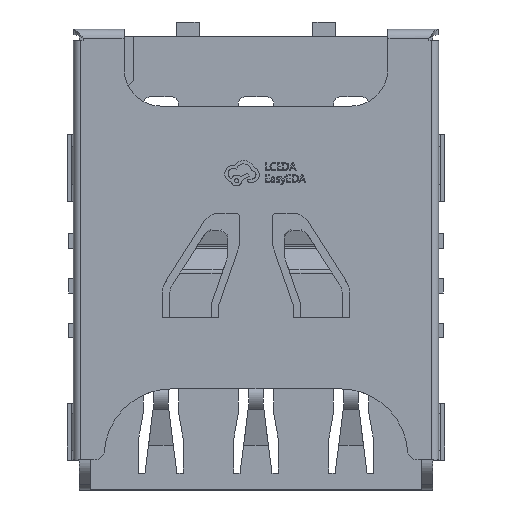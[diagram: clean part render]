
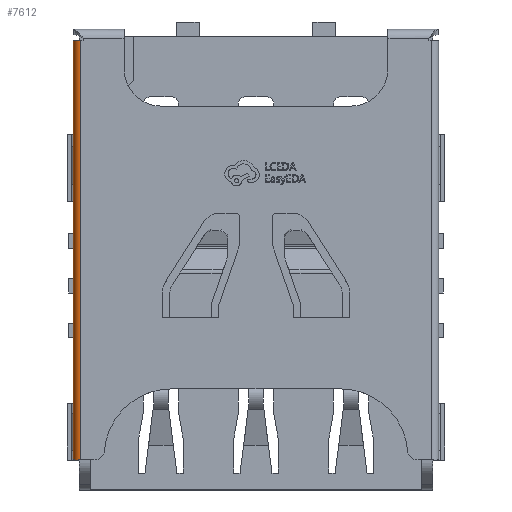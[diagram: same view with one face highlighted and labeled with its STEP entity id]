
A CAD part, top view. The second image highlights one B-rep face of the part: STEP entity #7612.
In plain terms, the highlighted cylindrical face has radius 0.19 mm (diameter 0.38 mm), a partial arc.
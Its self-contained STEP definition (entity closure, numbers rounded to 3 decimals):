
#941 = DIRECTION ( 'NONE',  ( 0., 1., 0. ) ) ;
#1634 = VERTEX_POINT ( 'NONE', #12554 ) ;
#2439 = EDGE_CURVE ( 'NONE', #25627, #2555, #10095, .T. ) ;
#2473 = CARTESIAN_POINT ( 'NONE',  ( -4.875, -5.25, 0.92 ) ) ;
#2507 = CARTESIAN_POINT ( 'NONE',  ( -4.685, 5.95, 1.11 ) ) ;
#2555 = VERTEX_POINT ( 'NONE', #2473 ) ;
#3457 = AXIS2_PLACEMENT_3D ( 'NONE', #22206, #18547, #18136 ) ;
#4325 = ORIENTED_EDGE ( 'NONE', *, *, #7376, .F. ) ;
#4679 = DIRECTION ( 'NONE',  ( 0., -1., 0. ) ) ;
#4800 = DIRECTION ( 'NONE',  ( 0., -1., 0. ) ) ;
#6378 = CARTESIAN_POINT ( 'NONE',  ( -4.685, -5.25, 0.92 ) ) ;
#6683 = LINE ( 'NONE', #17034, #20822 ) ;
#6873 = EDGE_LOOP ( 'NONE', ( #11956, #4325, #18864, #13377 ) ) ;
#6884 = CIRCLE ( 'NONE', #16359, 0.19 ) ;
#7231 = DIRECTION ( 'NONE',  ( 0., 0., 1. ) ) ;
#7376 = EDGE_CURVE ( 'NONE', #1634, #23574, #6884, .T. ) ;
#7612 = ADVANCED_FACE ( 'NONE', ( #22603 ), #11936, .T. ) ;
#10095 = CIRCLE ( 'NONE', #20437, 0.19 ) ;
#11936 = CYLINDRICAL_SURFACE ( 'NONE', #3457, 0.19 ) ;
#11956 = ORIENTED_EDGE ( 'NONE', *, *, #18498, .F. ) ;
#12166 = DIRECTION ( 'NONE',  ( 0., -1., 0. ) ) ;
#12554 = CARTESIAN_POINT ( 'NONE',  ( -4.875, 5.95, 0.92 ) ) ;
#13377 = ORIENTED_EDGE ( 'NONE', *, *, #2439, .F. ) ;
#16359 = AXIS2_PLACEMENT_3D ( 'NONE', #19366, #941, #7231 ) ;
#16923 = CARTESIAN_POINT ( 'NONE',  ( -4.875, -5.25, 0.92 ) ) ;
#17034 = CARTESIAN_POINT ( 'NONE',  ( -4.685, 5.95, 1.11 ) ) ;
#18136 = DIRECTION ( 'NONE',  ( -1., 0., 0. ) ) ;
#18498 = EDGE_CURVE ( 'NONE', #23574, #25627, #6683, .T. ) ;
#18547 = DIRECTION ( 'NONE',  ( 0., 1., 0. ) ) ;
#18864 = ORIENTED_EDGE ( 'NONE', *, *, #26144, .T. ) ;
#19366 = CARTESIAN_POINT ( 'NONE',  ( -4.685, 5.95, 0.92 ) ) ;
#20358 = CARTESIAN_POINT ( 'NONE',  ( -4.685, -5.25, 1.11 ) ) ;
#20405 = DIRECTION ( 'NONE',  ( 0., 0., 1. ) ) ;
#20437 = AXIS2_PLACEMENT_3D ( 'NONE', #6378, #12166, #20405 ) ;
#20822 = VECTOR ( 'NONE', #4800, 1000. ) ;
#22206 = CARTESIAN_POINT ( 'NONE',  ( -4.685, 5.95, 0.92 ) ) ;
#22603 = FACE_OUTER_BOUND ( 'NONE', #6873, .T. ) ;
#23128 = LINE ( 'NONE', #16923, #23459 ) ;
#23459 = VECTOR ( 'NONE', #4679, 1000. ) ;
#23574 = VERTEX_POINT ( 'NONE', #2507 ) ;
#25627 = VERTEX_POINT ( 'NONE', #20358 ) ;
#26144 = EDGE_CURVE ( 'NONE', #1634, #2555, #23128, .T. ) ;
